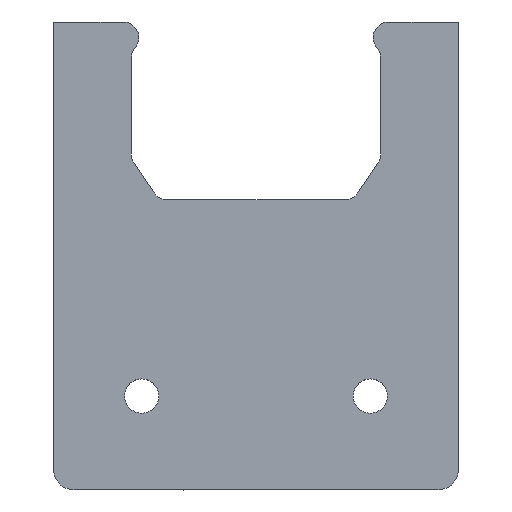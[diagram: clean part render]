
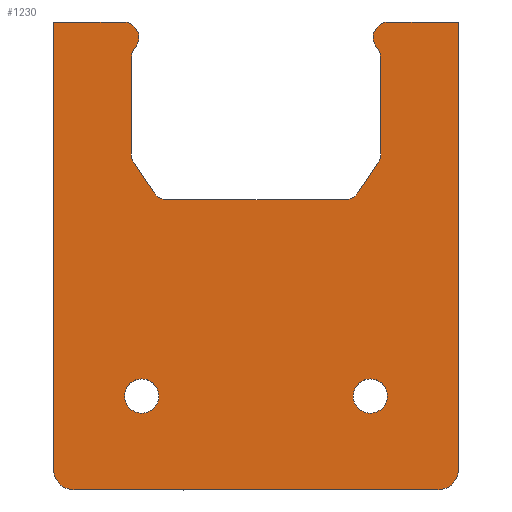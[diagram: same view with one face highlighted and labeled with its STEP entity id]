
A CAD part, top view. The second image highlights one B-rep face of the part: STEP entity #1230.
In plain terms, the highlighted planar face has unit normal (0, 0, 1).
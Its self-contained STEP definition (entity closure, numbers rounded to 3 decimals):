
#39=FACE_BOUND('',#248,.T.);
#40=FACE_BOUND('',#249,.T.);
#83=CIRCLE('',#1314,1.5);
#84=CIRCLE('',#1317,1.5);
#85=CIRCLE('',#1320,1.5);
#86=CIRCLE('',#1323,1.5);
#87=CIRCLE('',#1326,1.5);
#88=CIRCLE('',#1329,1.5);
#89=CIRCLE('',#1332,1.5);
#90=CIRCLE('',#1335,1.5);
#97=CIRCLE('',#1348,2.);
#98=CIRCLE('',#1349,2.);
#99=CIRCLE('',#1350,1.65);
#100=CIRCLE('',#1351,1.65);
#176=FACE_OUTER_BOUND('',#247,.T.);
#247=EDGE_LOOP('',(#976,#977,#978,#979,#980,#981,#982,#983,#984,#985,#986,
#987,#988,#989,#990,#991,#992,#993,#994,#995,#996,#997));
#248=EDGE_LOOP('',(#998));
#249=EDGE_LOOP('',(#999));
#326=LINE('',#1903,#433);
#329=LINE('',#1911,#436);
#332=LINE('',#1919,#439);
#335=LINE('',#1927,#442);
#338=LINE('',#1935,#445);
#341=LINE('',#1943,#448);
#344=LINE('',#1951,#451);
#347=LINE('',#1959,#454);
#350=LINE('',#1965,#457);
#361=LINE('',#2000,#468);
#363=LINE('',#2004,#470);
#365=LINE('',#2010,#472);
#433=VECTOR('',#1528,10.);
#436=VECTOR('',#1537,10.);
#439=VECTOR('',#1546,10.);
#442=VECTOR('',#1555,10.);
#445=VECTOR('',#1564,10.);
#448=VECTOR('',#1573,10.);
#451=VECTOR('',#1582,10.);
#454=VECTOR('',#1591,10.);
#457=VECTOR('',#1596,10.);
#468=VECTOR('',#1623,10.);
#470=VECTOR('',#1627,10.);
#472=VECTOR('',#1633,10.);
#537=VERTEX_POINT('',#1895);
#538=VERTEX_POINT('',#1897);
#539=VERTEX_POINT('',#1901);
#540=VERTEX_POINT('',#1905);
#541=VERTEX_POINT('',#1909);
#542=VERTEX_POINT('',#1913);
#543=VERTEX_POINT('',#1917);
#544=VERTEX_POINT('',#1921);
#545=VERTEX_POINT('',#1925);
#546=VERTEX_POINT('',#1929);
#547=VERTEX_POINT('',#1933);
#548=VERTEX_POINT('',#1937);
#549=VERTEX_POINT('',#1941);
#550=VERTEX_POINT('',#1945);
#551=VERTEX_POINT('',#1949);
#552=VERTEX_POINT('',#1953);
#553=VERTEX_POINT('',#1957);
#555=VERTEX_POINT('',#1963);
#571=VERTEX_POINT('',#1999);
#572=VERTEX_POINT('',#2003);
#573=VERTEX_POINT('',#2007);
#574=VERTEX_POINT('',#2009);
#575=VERTEX_POINT('',#2012);
#576=VERTEX_POINT('',#2014);
#668=EDGE_CURVE('',#537,#538,#83,.T.);
#671=EDGE_CURVE('',#537,#539,#326,.T.);
#673=EDGE_CURVE('',#540,#539,#84,.T.);
#675=EDGE_CURVE('',#540,#541,#329,.T.);
#677=EDGE_CURVE('',#542,#541,#85,.T.);
#679=EDGE_CURVE('',#542,#543,#332,.T.);
#681=EDGE_CURVE('',#544,#543,#86,.T.);
#683=EDGE_CURVE('',#544,#545,#335,.T.);
#685=EDGE_CURVE('',#546,#545,#87,.T.);
#687=EDGE_CURVE('',#546,#547,#338,.T.);
#689=EDGE_CURVE('',#548,#547,#88,.T.);
#691=EDGE_CURVE('',#548,#549,#341,.T.);
#693=EDGE_CURVE('',#550,#549,#89,.T.);
#695=EDGE_CURVE('',#550,#551,#344,.T.);
#697=EDGE_CURVE('',#552,#551,#90,.T.);
#699=EDGE_CURVE('',#552,#553,#347,.T.);
#702=EDGE_CURVE('',#553,#555,#350,.F.);
#719=EDGE_CURVE('',#571,#538,#361,.T.);
#721=EDGE_CURVE('',#572,#571,#363,.F.);
#723=EDGE_CURVE('',#573,#555,#97,.T.);
#724=EDGE_CURVE('',#573,#574,#365,.T.);
#725=EDGE_CURVE('',#572,#574,#98,.T.);
#726=EDGE_CURVE('',#575,#575,#99,.T.);
#727=EDGE_CURVE('',#576,#576,#100,.T.);
#976=ORIENTED_EDGE('',*,*,#697,.F.);
#977=ORIENTED_EDGE('',*,*,#699,.T.);
#978=ORIENTED_EDGE('',*,*,#702,.T.);
#979=ORIENTED_EDGE('',*,*,#723,.F.);
#980=ORIENTED_EDGE('',*,*,#724,.T.);
#981=ORIENTED_EDGE('',*,*,#725,.F.);
#982=ORIENTED_EDGE('',*,*,#721,.T.);
#983=ORIENTED_EDGE('',*,*,#719,.T.);
#984=ORIENTED_EDGE('',*,*,#668,.F.);
#985=ORIENTED_EDGE('',*,*,#671,.T.);
#986=ORIENTED_EDGE('',*,*,#673,.F.);
#987=ORIENTED_EDGE('',*,*,#675,.T.);
#988=ORIENTED_EDGE('',*,*,#677,.F.);
#989=ORIENTED_EDGE('',*,*,#679,.T.);
#990=ORIENTED_EDGE('',*,*,#681,.F.);
#991=ORIENTED_EDGE('',*,*,#683,.T.);
#992=ORIENTED_EDGE('',*,*,#685,.F.);
#993=ORIENTED_EDGE('',*,*,#687,.T.);
#994=ORIENTED_EDGE('',*,*,#689,.F.);
#995=ORIENTED_EDGE('',*,*,#691,.T.);
#996=ORIENTED_EDGE('',*,*,#693,.F.);
#997=ORIENTED_EDGE('',*,*,#695,.T.);
#998=ORIENTED_EDGE('',*,*,#726,.T.);
#999=ORIENTED_EDGE('',*,*,#727,.T.);
#1179=PLANE('',#1347);
#1230=ADVANCED_FACE('',(#176,#39,#40),#1179,.T.);
#1314=AXIS2_PLACEMENT_3D('',#1898,#1522,#1523);
#1317=AXIS2_PLACEMENT_3D('',#1907,#1532,#1533);
#1320=AXIS2_PLACEMENT_3D('',#1915,#1541,#1542);
#1323=AXIS2_PLACEMENT_3D('',#1923,#1550,#1551);
#1326=AXIS2_PLACEMENT_3D('',#1931,#1559,#1560);
#1329=AXIS2_PLACEMENT_3D('',#1939,#1568,#1569);
#1332=AXIS2_PLACEMENT_3D('',#1947,#1577,#1578);
#1335=AXIS2_PLACEMENT_3D('',#1955,#1586,#1587);
#1347=AXIS2_PLACEMENT_3D('',#2006,#1629,#1630);
#1348=AXIS2_PLACEMENT_3D('',#2008,#1631,#1632);
#1349=AXIS2_PLACEMENT_3D('',#2011,#1634,#1635);
#1350=AXIS2_PLACEMENT_3D('',#2013,#1636,#1637);
#1351=AXIS2_PLACEMENT_3D('',#2015,#1638,#1639);
#1522=DIRECTION('center_axis',(0.,0.,
-1.));
#1523=DIRECTION('ref_axis',(-0.882,0.472,0.));
#1528=DIRECTION('',(0.555,-0.832,0.));
#1532=DIRECTION('center_axis',(0.,0.,
1.));
#1533=DIRECTION('ref_axis',(0.957,0.29,0.));
#1537=DIRECTION('',(0.,-1.,0.));
#1541=DIRECTION('center_axis',(0.,0.,
1.));
#1542=DIRECTION('ref_axis',(0.957,-0.29,0.));
#1546=DIRECTION('',(-0.555,-0.832,0.));
#1550=DIRECTION('center_axis',(0.,0.,
1.));
#1551=DIRECTION('ref_axis',(0.472,-0.882,0.));
#1555=DIRECTION('',(-1.,0.,0.));
#1559=DIRECTION('center_axis',(0.,0.,
1.));
#1560=DIRECTION('ref_axis',(-0.472,-0.882,0.));
#1564=DIRECTION('',(-0.555,0.832,0.));
#1568=DIRECTION('center_axis',(0.,0.,
1.));
#1569=DIRECTION('ref_axis',(-0.957,-0.29,0.));
#1573=DIRECTION('',(0.,1.,0.));
#1577=DIRECTION('center_axis',(0.,0.,
1.));
#1578=DIRECTION('ref_axis',(-0.957,0.29,0.));
#1582=DIRECTION('',(0.555,0.832,0.));
#1586=DIRECTION('center_axis',(0.,0.,
-1.));
#1587=DIRECTION('ref_axis',(0.882,0.472,0.));
#1591=DIRECTION('',(-1.,0.,0.));
#1596=DIRECTION('',(0.,1.,0.));
#1623=DIRECTION('',(-1.,0.,0.));
#1627=DIRECTION('',(0.,-1.,0.));
#1629=DIRECTION('center_axis',(0.,0.,
1.));
#1630=DIRECTION('ref_axis',(-1.,0.,0.));
#1631=DIRECTION('center_axis',(0.,0.,
-1.));
#1632=DIRECTION('ref_axis',(-0.707,-0.707,0.));
#1633=DIRECTION('',(1.,0.,0.));
#1634=DIRECTION('center_axis',(0.,0.,
-1.));
#1635=DIRECTION('ref_axis',(0.707,-0.707,0.));
#1636=DIRECTION('center_axis',(0.,0.,
-1.));
#1637=DIRECTION('ref_axis',(-1.,0.,0.));
#1638=DIRECTION('center_axis',(0.,0.,
-1.));
#1639=DIRECTION('ref_axis',(-1.,0.,0.));
#1895=CARTESIAN_POINT('',(-8.477,-13.532,-1.65));
#1897=CARTESIAN_POINT('',(-7.229,-11.2,-1.65));
#1898=CARTESIAN_POINT('Origin',(-7.229,-12.7,-1.65));
#1901=CARTESIAN_POINT('',(-8.252,-13.869,-1.65));
#1903=CARTESIAN_POINT('',(-5.354,-18.216,-1.65));
#1905=CARTESIAN_POINT('',(-8.,-14.701,-1.65));
#1907=CARTESIAN_POINT('Origin',(-9.5,-14.701,-1.65));
#1909=CARTESIAN_POINT('',(-8.,-23.899,-1.65));
#1911=CARTESIAN_POINT('',(-8.,-29.033,-1.65));
#1913=CARTESIAN_POINT('',(-8.252,-24.731,-1.65));
#1915=CARTESIAN_POINT('Origin',(-9.5,-23.899,-1.65));
#1917=CARTESIAN_POINT('',(-10.186,-27.632,-1.65));
#1919=CARTESIAN_POINT('',(-13.322,-32.336,-1.65));
#1921=CARTESIAN_POINT('',(-11.434,-28.3,-1.65));
#1923=CARTESIAN_POINT('Origin',(-11.434,-26.8,-1.65));
#1925=CARTESIAN_POINT('',(-28.566,-28.3,-1.65));
#1927=CARTESIAN_POINT('',(-24.684,-28.3,-1.65));
#1929=CARTESIAN_POINT('',(-29.814,-27.632,-1.65));
#1931=CARTESIAN_POINT('Origin',(-28.566,-26.8,-1.65));
#1933=CARTESIAN_POINT('',(-31.748,-24.731,-1.65));
#1935=CARTESIAN_POINT('',(-27.994,-30.362,-1.65));
#1937=CARTESIAN_POINT('',(-32.,-23.899,-1.65));
#1939=CARTESIAN_POINT('Origin',(-30.5,-23.899,-1.65));
#1941=CARTESIAN_POINT('',(-32.,-14.701,-1.65));
#1943=CARTESIAN_POINT('',(-32.,-23.98,-1.65));
#1945=CARTESIAN_POINT('',(-31.748,-13.869,-1.65));
#1947=CARTESIAN_POINT('Origin',(-30.5,-14.701,-1.65));
#1949=CARTESIAN_POINT('',(-31.523,-13.532,-1.65));
#1951=CARTESIAN_POINT('',(-33.63,-16.693,-1.65));
#1953=CARTESIAN_POINT('',(-32.771,-11.2,-1.65));
#1955=CARTESIAN_POINT('Origin',(-32.771,-12.7,-1.65));
#1957=CARTESIAN_POINT('',(-39.5,-11.2,-1.65));
#1959=CARTESIAN_POINT('',(-9.712,-11.2,-1.65));
#1963=CARTESIAN_POINT('',(-39.5,-54.227,-1.65));
#1965=CARTESIAN_POINT('',(-39.5,-43.971,-1.65));
#1999=CARTESIAN_POINT('',(-0.5,-11.2,-1.65));
#2000=CARTESIAN_POINT('',(-9.712,-11.2,-1.65));
#2003=CARTESIAN_POINT('',(-0.5,-54.227,-1.65));
#2004=CARTESIAN_POINT('',(-0.5,-22.457,-1.65));
#2006=CARTESIAN_POINT('Origin',(-20.,-33.714,-1.65));
#2007=CARTESIAN_POINT('',(-37.5,-56.227,-1.65));
#2008=CARTESIAN_POINT('Origin',(-37.5,-54.227,-1.65));
#2009=CARTESIAN_POINT('',(-2.5,-56.227,-1.65));
#2010=CARTESIAN_POINT('',(-33.5,-56.227,-1.65));
#2011=CARTESIAN_POINT('Origin',(-2.5,-54.227,-1.65));
#2012=CARTESIAN_POINT('',(-7.35,-47.2,-1.65));
#2013=CARTESIAN_POINT('Origin',(-9.,-47.2,-1.65));
#2014=CARTESIAN_POINT('',(-29.35,-47.2,-1.65));
#2015=CARTESIAN_POINT('Origin',(-31.,-47.2,-1.65));
